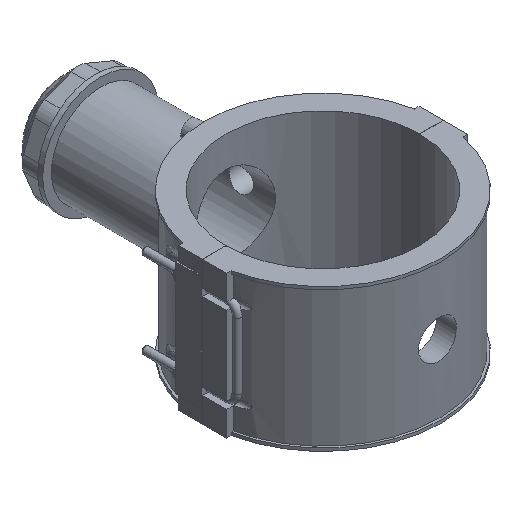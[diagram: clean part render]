
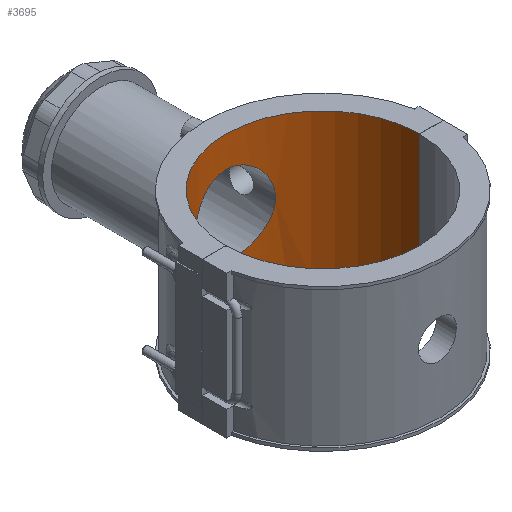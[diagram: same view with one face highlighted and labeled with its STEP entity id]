
A CAD part, isometric view. The second image highlights one B-rep face of the part: STEP entity #3695.
In plain terms, the highlighted cylindrical face has radius 80 mm (diameter 160 mm), a partial arc.
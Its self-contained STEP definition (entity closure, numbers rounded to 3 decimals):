
#274=LINE('',#7399,#575);
#337=LINE('',#7817,#638);
#575=VECTOR('',#4725,118.);
#638=VECTOR('',#4940,118.);
#884=CIRCLE('',#4012,80.);
#885=CIRCLE('',#4014,80.);
#932=FACE_BOUND('',#1392,.T.);
#1138=FACE_OUTER_BOUND('',#1391,.T.);
#1391=EDGE_LOOP('',(#3426,#3427,#3428,#3429));
#1392=EDGE_LOOP('',(#3430));
#1394=B_SPLINE_CURVE_WITH_KNOTS('',3,(#4959,#4960,#4961,#4962,#4963,#4964,
#4965,#4966,#4967,#4968,#4969,#4970,#4971,#4972,#4973,#4974,#4975,#4976,
#4977,#4978,#4979,#4980,#4981,#4982,#4983,#4984,#4985,#4986,#4987,#4988,
#4989,#4990,#4991,#4992,#4993,#4994,#4995,#4996,#4997,#4998,#4999,#5000,
#5001,#5002,#5003,#5004,#5005,#5006,#5007,#5008,#5009,#5010,#5011,#5012,
#5013,#5014,#5015,#5016,#5017,#5018,#5019,#5020,#5021,#5022,#5023,#5024),
 .UNSPECIFIED.,.T.,.F.,(4,2,2,2,2,2,2,2,2,2,2,2,2,2,2,2,2,2,2,2,2,2,2,2,
2,2,2,2,2,2,2,2,4),(0.,0.642,1.284,1.926,
2.568,3.209,3.85,4.491,5.133,
5.774,6.415,7.056,7.697,8.339,
8.981,9.623,10.265,10.907,11.549,
12.191,12.833,13.474,14.116,14.757,
15.398,16.039,16.68,17.321,17.963,
18.605,19.247,19.889,20.531),
 .UNSPECIFIED.);
#1499=VERTEX_POINT('',#4958);
#1788=VERTEX_POINT('',#7396);
#1789=VERTEX_POINT('',#7398);
#1847=VERTEX_POINT('',#7814);
#1848=VERTEX_POINT('',#7816);
#1850=EDGE_CURVE('',#1499,#1499,#1394,.T.);
#2265=EDGE_CURVE('',#1789,#1788,#274,.T.);
#2367=EDGE_CURVE('',#1848,#1847,#337,.T.);
#2370=EDGE_CURVE('',#1789,#1847,#884,.T.);
#2371=EDGE_CURVE('',#1848,#1788,#885,.T.);
#3426=ORIENTED_EDGE('',*,*,#2367,.T.);
#3427=ORIENTED_EDGE('',*,*,#2370,.F.);
#3428=ORIENTED_EDGE('',*,*,#2265,.T.);
#3429=ORIENTED_EDGE('',*,*,#2371,.F.);
#3430=ORIENTED_EDGE('',*,*,#1850,.T.);
#3489=CYLINDRICAL_SURFACE('',#4015,80.);
#3695=ADVANCED_FACE('',(#1138,#932),#3489,.F.);
#4012=AXIS2_PLACEMENT_3D('',#7822,#4945,#4946);
#4014=AXIS2_PLACEMENT_3D('',#7824,#4949,#4950);
#4015=AXIS2_PLACEMENT_3D('',#7826,#4952,#4953);
#4725=DIRECTION('',(0.,0.,-1.));
#4940=DIRECTION('',(0.,0.,1.));
#4945=DIRECTION('center_axis',(0.,0.,-1.));
#4946=DIRECTION('ref_axis',(-1.,0.,0.));
#4949=DIRECTION('center_axis',(0.,0.,1.));
#4950=DIRECTION('ref_axis',(-1.,0.,0.));
#4952=DIRECTION('center_axis',(0.,0.,1.));
#4953=DIRECTION('ref_axis',(-1.,0.,0.));
#4958=CARTESIAN_POINT('',(-33.6,72.602,0.));
#4959=CARTESIAN_POINT('Ctrl Pts',(-33.6,72.602,0.));
#4960=CARTESIAN_POINT('Ctrl Pts',(-33.6,72.602,2.14));
#4961=CARTESIAN_POINT('Ctrl Pts',(-33.392,72.699,4.343));
#4962=CARTESIAN_POINT('Ctrl Pts',(-32.529,73.09,8.706));
#4963=CARTESIAN_POINT('Ctrl Pts',(-31.873,73.383,10.867));
#4964=CARTESIAN_POINT('Ctrl Pts',(-30.151,74.107,14.996));
#4965=CARTESIAN_POINT('Ctrl Pts',(-29.083,74.538,16.969));
#4966=CARTESIAN_POINT('Ctrl Pts',(-26.626,75.45,20.611));
#4967=CARTESIAN_POINT('Ctrl Pts',(-25.237,75.931,22.281));
#4968=CARTESIAN_POINT('Ctrl Pts',(-22.283,76.85,25.235));
#4969=CARTESIAN_POINT('Ctrl Pts',(-20.614,77.321,26.624));
#4970=CARTESIAN_POINT('Ctrl Pts',(-16.971,78.202,29.082));
#4971=CARTESIAN_POINT('Ctrl Pts',(-14.997,78.61,30.151));
#4972=CARTESIAN_POINT('Ctrl Pts',(-10.865,79.286,31.874));
#4973=CARTESIAN_POINT('Ctrl Pts',(-8.703,79.555,32.529));
#4974=CARTESIAN_POINT('Ctrl Pts',(-4.339,79.912,33.393));
#4975=CARTESIAN_POINT('Ctrl Pts',(-2.137,80.,33.6));
#4976=CARTESIAN_POINT('Ctrl Pts',(2.137,80.,33.6));
#4977=CARTESIAN_POINT('Ctrl Pts',(4.339,79.912,33.393));
#4978=CARTESIAN_POINT('Ctrl Pts',(8.703,79.555,32.529));
#4979=CARTESIAN_POINT('Ctrl Pts',(10.865,79.286,31.874));
#4980=CARTESIAN_POINT('Ctrl Pts',(14.997,78.61,30.151));
#4981=CARTESIAN_POINT('Ctrl Pts',(16.971,78.202,29.082));
#4982=CARTESIAN_POINT('Ctrl Pts',(20.614,77.321,26.624));
#4983=CARTESIAN_POINT('Ctrl Pts',(22.283,76.85,25.235));
#4984=CARTESIAN_POINT('Ctrl Pts',(25.237,75.931,22.281));
#4985=CARTESIAN_POINT('Ctrl Pts',(26.626,75.45,20.611));
#4986=CARTESIAN_POINT('Ctrl Pts',(29.083,74.538,16.969));
#4987=CARTESIAN_POINT('Ctrl Pts',(30.151,74.107,14.996));
#4988=CARTESIAN_POINT('Ctrl Pts',(31.873,73.383,10.867));
#4989=CARTESIAN_POINT('Ctrl Pts',(32.529,73.09,8.706));
#4990=CARTESIAN_POINT('Ctrl Pts',(33.392,72.699,4.343));
#4991=CARTESIAN_POINT('Ctrl Pts',(33.6,72.602,2.14));
#4992=CARTESIAN_POINT('Ctrl Pts',(33.6,72.602,-2.14));
#4993=CARTESIAN_POINT('Ctrl Pts',(33.392,72.699,-4.343));
#4994=CARTESIAN_POINT('Ctrl Pts',(32.529,73.09,-8.706));
#4995=CARTESIAN_POINT('Ctrl Pts',(31.873,73.383,-10.867));
#4996=CARTESIAN_POINT('Ctrl Pts',(30.151,74.107,-14.996));
#4997=CARTESIAN_POINT('Ctrl Pts',(29.083,74.538,-16.969));
#4998=CARTESIAN_POINT('Ctrl Pts',(26.626,75.45,-20.611));
#4999=CARTESIAN_POINT('Ctrl Pts',(25.237,75.931,-22.281));
#5000=CARTESIAN_POINT('Ctrl Pts',(22.283,76.85,-25.235));
#5001=CARTESIAN_POINT('Ctrl Pts',(20.614,77.321,-26.624));
#5002=CARTESIAN_POINT('Ctrl Pts',(16.971,78.202,-29.082));
#5003=CARTESIAN_POINT('Ctrl Pts',(14.997,78.61,-30.151));
#5004=CARTESIAN_POINT('Ctrl Pts',(10.865,79.286,-31.874));
#5005=CARTESIAN_POINT('Ctrl Pts',(8.703,79.555,-32.529));
#5006=CARTESIAN_POINT('Ctrl Pts',(4.339,79.912,-33.393));
#5007=CARTESIAN_POINT('Ctrl Pts',(2.137,80.,-33.6));
#5008=CARTESIAN_POINT('Ctrl Pts',(-2.137,80.,-33.6));
#5009=CARTESIAN_POINT('Ctrl Pts',(-4.339,79.912,-33.393));
#5010=CARTESIAN_POINT('Ctrl Pts',(-8.703,79.555,-32.529));
#5011=CARTESIAN_POINT('Ctrl Pts',(-10.865,79.286,-31.874));
#5012=CARTESIAN_POINT('Ctrl Pts',(-14.997,78.61,-30.151));
#5013=CARTESIAN_POINT('Ctrl Pts',(-16.971,78.202,-29.082));
#5014=CARTESIAN_POINT('Ctrl Pts',(-20.614,77.321,-26.624));
#5015=CARTESIAN_POINT('Ctrl Pts',(-22.283,76.85,-25.235));
#5016=CARTESIAN_POINT('Ctrl Pts',(-25.237,75.931,-22.281));
#5017=CARTESIAN_POINT('Ctrl Pts',(-26.626,75.45,-20.611));
#5018=CARTESIAN_POINT('Ctrl Pts',(-29.083,74.538,-16.969));
#5019=CARTESIAN_POINT('Ctrl Pts',(-30.151,74.107,-14.996));
#5020=CARTESIAN_POINT('Ctrl Pts',(-31.873,73.383,-10.867));
#5021=CARTESIAN_POINT('Ctrl Pts',(-32.529,73.09,-8.706));
#5022=CARTESIAN_POINT('Ctrl Pts',(-33.392,72.699,-4.343));
#5023=CARTESIAN_POINT('Ctrl Pts',(-33.6,72.602,-2.14));
#5024=CARTESIAN_POINT('Ctrl Pts',(-33.6,72.602,0.));
#7396=CARTESIAN_POINT('',(-80.,0.05,-59.));
#7398=CARTESIAN_POINT('',(-80.,0.05,59.));
#7399=CARTESIAN_POINT('',(-80.,0.05,0.));
#7814=CARTESIAN_POINT('',(80.,0.05,59.));
#7816=CARTESIAN_POINT('',(80.,0.05,-59.));
#7817=CARTESIAN_POINT('',(80.,0.05,0.));
#7822=CARTESIAN_POINT('Origin',(0.,0.,59.));
#7824=CARTESIAN_POINT('Origin',(0.,0.,-59.));
#7826=CARTESIAN_POINT('Origin',(0.,0.,0.));
